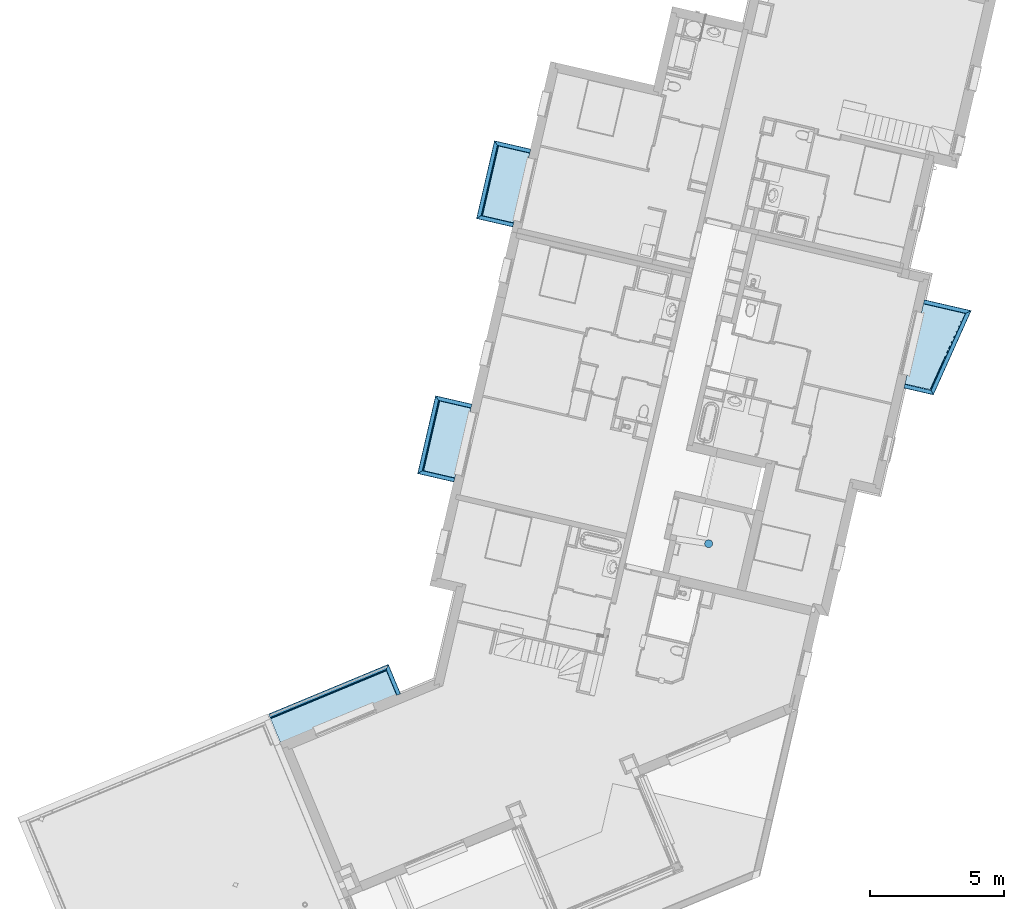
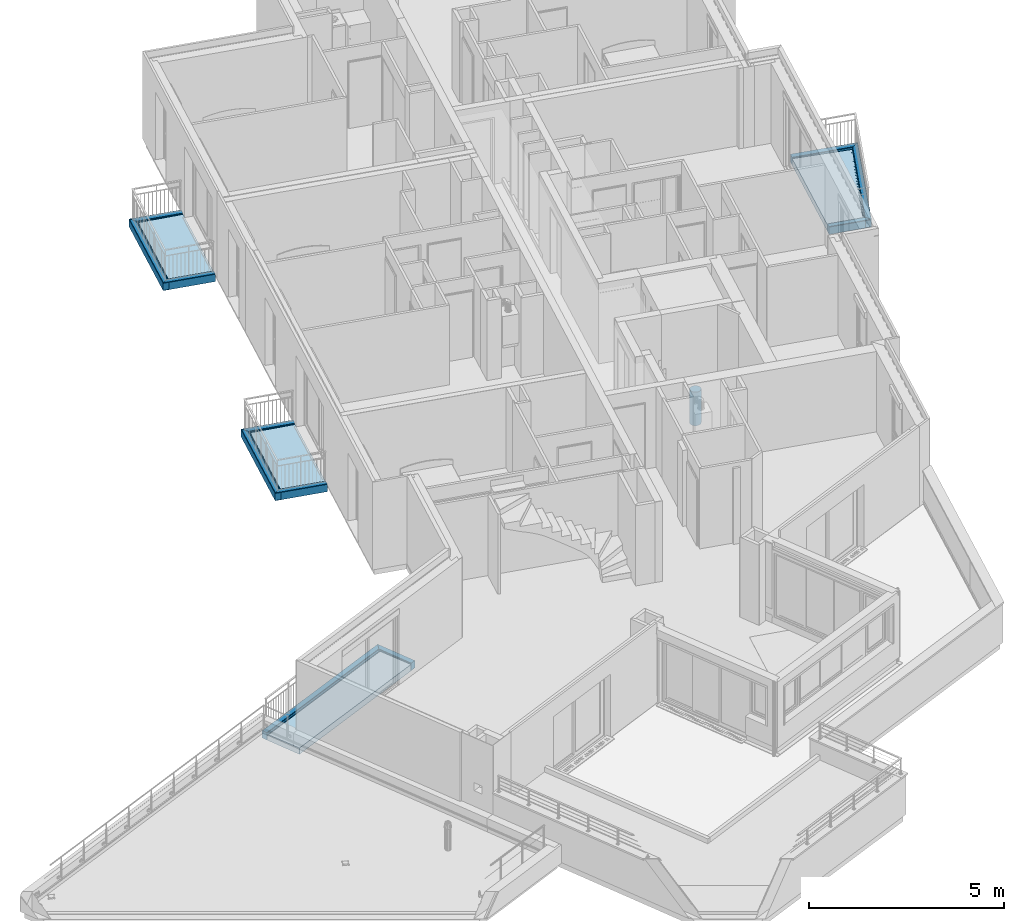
# One storey, part 2 of 62: 15 slabs, 1 member.
"""IFC2X3 building model written with IfcOpenShell, lengths in metres."""

from ifc_helpers import new_model, entity, si_unit, converted_unit, derived_unit, money_unit, direction, frame, origin_with_axes, place, context, subcontext, project, spatial, faceted_brep, material, type_object, element, save


model = new_model("IFC2X3")

# Units and contexts
model_context = context("Model", 3, precision=1e-05, world=origin_with_axes(), true_north=direction((0.0, 1.0)))
body_context = subcontext(model_context, "Body", "Model", "MODEL_VIEW")
ifc_project = project(units=[si_unit("LENGTHUNIT", "METRE"), si_unit("AREAUNIT", "SQUARE_METRE"), si_unit("VOLUMEUNIT", "CUBIC_METRE"), converted_unit("PLANEANGLEUNIT", "DEGREE", entity("IfcPlaneAngleMeasure", 0.0174532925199), si_unit("PLANEANGLEUNIT", "RADIAN"), dimensions=[0, 0, 0, 0, 0, 0, 0]), si_unit("SOLIDANGLEUNIT", "STERADIAN"), money_unit("EUR"), converted_unit("TIMEUNIT", "Year", entity("IfcTimeMeasure", 31556926.0), si_unit("TIMEUNIT", "SECOND"), dimensions=[0, 0, 1, 0, 0, 0, 0]), si_unit("MASSUNIT", "GRAM", prefix="KILO"), si_unit("THERMODYNAMICTEMPERATUREUNIT", "DEGREE_CELSIUS"), si_unit("LUMINOUSINTENSITYUNIT", "LUMEN"), si_unit("ENERGYUNIT", "JOULE", prefix="MEGA"), derived_unit("THERMALCONDUCTANCEUNIT", [(si_unit("POWERUNIT", "WATT"), 1), (si_unit("LENGTHUNIT", "METRE"), -1), (si_unit("THERMODYNAMICTEMPERATUREUNIT", "KELVIN"), -1)]), derived_unit("SPECIFICHEATCAPACITYUNIT", [(si_unit("ENERGYUNIT", "JOULE"), 1), (si_unit("MASSUNIT", "GRAM", prefix="KILO"), -1), (si_unit("THERMODYNAMICTEMPERATUREUNIT", "KELVIN"), -1)]), derived_unit("MASSDENSITYUNIT", [(si_unit("MASSUNIT", "GRAM", prefix="KILO"), 1), (si_unit("VOLUMEUNIT", "CUBIC_METRE"), -1)])], contexts=[model_context])

# Site, building, storey
site_placement = place(None, origin_with_axes())
site = spatial("IfcSite", under=ifc_project, at=site_placement, Name="Site", CompositionType="ELEMENT")
building_placement = place(site_placement, origin_with_axes())
building = spatial("IfcBuilding", under=site, at=building_placement, Name="Bâtiment", CompositionType="ELEMENT")
storey_placement = place(building_placement, frame((0.0, 0.0, 8.16), z_axis=(0.0, 0.0, 1.0), x_axis=(1.0, 0.0, 0.0)))
storey = spatial("IfcBuildingStorey", under=building, at=storey_placement, Name="R+3", CompositionType="ELEMENT", Elevation=8.16)

# Member
ifc_material = material(Name="Béton")
member_type = type_object("IfcMemberType", Name="Béton D300", PredefinedType="USERDEFINED")
member_placement = place(storey_placement, frame((-9.52980076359, -7.68659305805, 0.0), z_axis=(0.0, 0.0, 1.0), x_axis=(0.0549398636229, 0.998489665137, 0.0)))
element("IfcMember", 1, at=member_placement, inside=storey, type_object=member_type, material=ifc_material, Name="Pot-001", ObjectType="STAIR_STRUCTURE", context=body_context, shape_type="Brep", body=[
    faceted_brep([(-0.15, 0.0, 1.05), (-0.15, 0.0, 0.0), (-0.146239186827, -0.0333781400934, 0.0), (-0.146239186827, -0.0333781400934, 1.05), (-0.146239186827, 0.0333781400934, 1.05), (-0.146239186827, 0.0333781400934, 0.0), (-0.135145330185, 0.0650825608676, 0.0), (-0.11727472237, 0.0935234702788, 0.0), (-0.0935234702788, 0.11727472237, 0.0), (-0.0650825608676, 0.135145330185, 0.0), (-0.0333781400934, 0.146239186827, 0.0), (0.0, 0.15, 0.0), (0.0333781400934, 0.146239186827, 0.0), (0.0650825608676, 0.135145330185, 0.0), (0.0935234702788, 0.11727472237, 0.0), (0.11727472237, 0.0935234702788, 0.0), (0.135145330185, 0.0650825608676, 0.0), (0.146239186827, 0.0333781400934, 0.0), (0.15, 0.0, 0.0), (0.146239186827, -0.0333781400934, 0.0), (0.135145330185, -0.0650825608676, 0.0), (0.11727472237, -0.0935234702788, 0.0), (0.0935234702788, -0.11727472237, 0.0), (0.0650825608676, -0.135145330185, 0.0), (0.0333781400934, -0.146239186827, 0.0), (0.0, -0.15, 0.0), (-0.0333781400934, -0.146239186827, 0.0), (-0.0650825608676, -0.135145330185, 0.0), (-0.0935234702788, -0.11727472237, 0.0), (-0.11727472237, -0.0935234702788, 0.0), (-0.135145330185, -0.0650825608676, 0.0), (-0.135145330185, -0.0650825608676, 1.05), (-0.11727472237, -0.0935234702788, 1.05), (-0.0935234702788, -0.11727472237, 1.05), (-0.0650825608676, -0.135145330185, 1.05), (-0.0333781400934, -0.146239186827, 1.05), (0.0, -0.15, 1.05), (0.0333781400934, -0.146239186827, 1.05), (0.0650825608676, -0.135145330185, 1.05), (0.0935234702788, -0.11727472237, 1.05), (0.11727472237, -0.0935234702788, 1.05), (0.135145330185, -0.0650825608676, 1.05), (0.146239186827, -0.0333781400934, 1.05), (0.15, 0.0, 1.05), (0.146239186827, 0.0333781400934, 1.05), (0.135145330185, 0.0650825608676, 1.05), (0.11727472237, 0.0935234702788, 1.05), (0.0935234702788, 0.11727472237, 1.05), (0.0650825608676, 0.135145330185, 1.05), (0.0333781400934, 0.146239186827, 1.05), (0.0, 0.15, 1.05), (-0.0333781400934, 0.146239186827, 1.05), (-0.0650825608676, 0.135145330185, 1.05), (-0.0935234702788, 0.11727472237, 1.05), (-0.11727472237, 0.0935234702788, 1.05), (-0.135145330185, 0.0650825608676, 1.05)], [[[0, 1, 2, 3]], [[4, 5, 1, 0]], [[2, 1, 5, 6, 7, 8, 9, 10, 11, 12, 13, 14, 15, 16, 17, 18, 19, 20, 21, 22, 23, 24, 25, 26, 27, 28, 29, 30]], [[3, 2, 30, 31]], [[4, 0, 3, 31, 32, 33, 34, 35, 36, 37, 38, 39, 40, 41, 42, 43, 44, 45, 46, 47, 48, 49, 50, 51, 52, 53, 54, 55]], [[55, 6, 5, 4]], [[54, 7, 6, 55]], [[53, 8, 7, 54]], [[52, 9, 8, 53]], [[51, 10, 9, 52]], [[50, 11, 10, 51]], [[49, 12, 11, 50]], [[48, 13, 12, 49]], [[47, 14, 13, 48]], [[46, 15, 14, 47]], [[45, 16, 15, 46]], [[44, 17, 16, 45]], [[43, 18, 17, 44]], [[42, 19, 18, 43]], [[41, 20, 19, 42]], [[40, 21, 20, 41]], [[39, 22, 21, 40]], [[38, 23, 22, 39]], [[37, 24, 23, 38]], [[36, 25, 24, 37]], [[35, 26, 25, 36]], [[34, 27, 26, 35]], [[33, 28, 27, 34]], [[32, 29, 28, 33]], [[31, 30, 29, 32]]]),
])

# Slabs
slab_type_1 = type_object("IfcSlabType", Name="Nez de balcon 160 x 239", PredefinedType="USERDEFINED")
slab_1_placement = place(storey_placement, frame((-21.5195523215, -12.1975526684, -0.22), z_axis=(0.0, 0.0, 1.0), x_axis=(0.383112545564, -0.923701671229, 0.0)))
element("IfcSlab", 2, at=slab_1_placement, inside=storey, type_object=slab_type_1, material=ifc_material, Name="Nez-de-balcon béton", ObjectType="BALCONY", PredefinedType="USERDEFINED", context=body_context, shape_type="Brep", body=[
    faceted_brep([(0.159999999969, -0.0314560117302, 0.00622819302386), (0.159999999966, -0.0347409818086, 0.0), (0.159999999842, -0.16, 0.0), (0.159999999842, -0.16, 0.00872064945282), (0.159999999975, -0.0248704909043, 0.00872064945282), (1.20000000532, -0.0347409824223, 0.0), (1.20000000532, -0.0314560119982, 0.00622819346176), (1.20000000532, -0.16, 0.0), (0.159999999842, -0.16, 0.22), (1.20000000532, -0.16, 0.22), (0.16, 0.0, 0.22), (0.16, 0.0, 0.00872065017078), (1.20000000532, -0.0248704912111, 0.00872065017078), (1.20000000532, -0.018284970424, 0.00622819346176), (1.20000000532, -0.015, 0.0), (1.20000000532, 0.0, 0.0), (1.20000000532, 0.0, 0.23), (1.20000000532, -0.00998052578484, 0.239376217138), (1.20000000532, -0.150019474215, 0.230623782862), (0.150019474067, -0.150019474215, 0.230623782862), (0.150019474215, -0.00066398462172, 0.230623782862), (0.150605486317, 0.0, 0.230000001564), (0.015, 0.0, 0.0), (0.0182849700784, 0.0, 0.00622819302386), (0.0248704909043, 0.0, 0.00872064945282), (0.0248704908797, -0.0248704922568, 0.00872065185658), (0.0182849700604, -0.0182849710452, 0.00622819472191), (0.0149999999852, -0.0150000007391, 0.0), (0.00998052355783, -0.00998052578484, 0.239376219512)], [[[0, 1, 2, 3, 4]], [[5, 1, 0, 6]], [[7, 2, 1, 5]], [[8, 3, 2, 7, 9]], [[4, 3, 8, 10, 11]], [[6, 0, 4, 12]], [[9, 7, 5, 6, 12, 13, 14, 15, 16, 17, 18]], [[18, 19, 8, 9]], [[10, 8, 19, 20, 21]], [[15, 22, 23, 24, 11, 10, 21, 16]], [[24, 25, 4, 11]], [[12, 4, 25, 26, 13]], [[13, 26, 27, 14]], [[14, 27, 22, 15]], [[20, 28, 17, 16, 21]], [[17, 28, 19, 18]], [[20, 19, 28]], [[22, 27, 26, 23]], [[23, 26, 25, 24]]]),
])
slab_2_placement = place(storey_placement, frame((0.307025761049, 1.04328030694, -0.22), z_axis=(0.0, 0.0, 1.0), x_axis=(-0.974387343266, 0.224876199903, 0.0)))
element("IfcSlab", 3, at=slab_2_placement, inside=storey, type_object=slab_type_1, material=ifc_material, Name="Nez-de-balcon béton", ObjectType="BALCONY", PredefinedType="USERDEFINED", context=body_context, shape_type="Brep", body=[
    faceted_brep([(1.80634800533, 0.0314560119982, 0.00622819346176), (1.80634800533, 0.0347409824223, 0.0), (1.80634800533, 0.16, 0.0), (1.80634800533, 0.16, 0.22), (1.80634800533, 0.150019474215, 0.230623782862), (1.80634800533, 0.00998052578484, 0.239376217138), (1.80634800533, 0.0, 0.23), (1.80634800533, 0.0, 0.0), (1.80634800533, 0.015, 0.0), (1.80634800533, 0.018284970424, 0.00622819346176), (1.80634800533, 0.0248704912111, 0.00872065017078), (0.169958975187, 0.0347409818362, 0.0), (0.16930984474, 0.0314560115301, 0.00622819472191), (0.194710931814, 0.16, 0.0), (0.194710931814, 0.16, 0.22), (0.194710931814, 0.16, 0.00872064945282), (0.182565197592, 0.150019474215, 0.230623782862), (0.0121457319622, 0.00998052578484, 0.239376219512), (0.153517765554, 0.0, 0.230000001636), (0.153051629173, 0.000663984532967, 0.230623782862), (0.0152900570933, 0.0, 0.0), (0.163093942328, 0.0, 0.22), (0.163093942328, 0.0, 0.00872065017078), (0.0253514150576, 0.0, 0.00872064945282), (0.0186385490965, 0.0, 0.00622819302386), (0.0182541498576, 0.015, 0.0), (0.0222517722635, 0.0182849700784, 0.00622819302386), (0.168008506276, 0.0248704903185, 0.00872065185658), (0.0302659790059, 0.0248704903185, 0.00872065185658)], [[[0, 1, 2, 3, 4, 5, 6, 7, 8, 9, 10]], [[11, 1, 0, 12]], [[13, 2, 1, 11]], [[14, 3, 2, 13, 15]], [[16, 4, 3, 14]], [[17, 5, 4, 16]], [[18, 6, 5, 17, 19]], [[20, 7, 6, 18, 21, 22, 23, 24]], [[25, 8, 7, 20]], [[26, 9, 8, 25]], [[27, 10, 9, 26, 28]], [[12, 0, 10, 27]], [[15, 13, 11, 12, 27]], [[21, 14, 15, 27, 22]], [[19, 16, 14, 21, 18]], [[19, 17, 16]], [[23, 22, 27, 28]], [[23, 28, 26, 24]], [[26, 25, 20, 24]]]),
])
slab_3_placement = place(storey_placement, frame((-1.11220619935, -2.11855110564, -0.22), z_axis=(0.0, 0.0, 1.0), x_axis=(-0.974387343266, 0.224876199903, 0.0)))
element("IfcSlab", 4, at=slab_3_placement, inside=storey, type_object=slab_type_1, material=ifc_material, Name="Nez-de-balcon béton", ObjectType="BALCONY", PredefinedType="USERDEFINED", context=body_context, shape_type="Brep", body=[
    faceted_brep([(1.13448697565, -0.015, 0.0), (1.13448697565, 0.0, 0.0), (1.13448697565, 0.0, 0.23), (1.13448697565, -0.00998052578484, 0.239376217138), (1.13448697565, -0.150019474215, 0.230623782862), (1.13448697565, -0.16, 0.22), (1.13448697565, -0.16, 0.0), (1.13448697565, -0.0347409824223, 0.0), (1.13448697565, -0.0314560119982, 0.00622819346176), (1.13448697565, -0.0248704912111, 0.00872065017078), (1.13448697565, -0.018284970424, 0.00622819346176), (0.0152900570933, 0.0, 0.0), (0.0123259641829, -0.0150000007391, 0.0), (0.153517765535, 0.0, 0.230000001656), (0.0186385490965, 0.0, 0.00622819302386), (0.0253514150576, 0.0, 0.00872064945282), (0.163093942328, 0.0, 0.00872065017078), (0.163093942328, 0.0, 0.22), (0.00820130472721, -0.00998052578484, 0.239376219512), (0.152789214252, -0.000663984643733, 0.230623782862), (0.123275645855, -0.150019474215, 0.230623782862), (0.131476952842, -0.16, 0.22), (0.131476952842, -0.16, 0.00872064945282), (0.131476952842, -0.16, 0.0), (0.156228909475, -0.0347409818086, 0.0), (0.156878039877, -0.0314560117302, 0.00622819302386), (0.158179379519, -0.0248704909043, 0.00872064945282), (0.0150253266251, -0.0182849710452, 0.00622819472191), (0.0204368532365, -0.0248704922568, 0.00872065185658)], [[[0, 1, 2, 3, 4, 5, 6, 7, 8, 9, 10]], [[11, 1, 0, 12]], [[13, 2, 1, 11, 14, 15, 16, 17]], [[18, 3, 2, 13, 19]], [[20, 4, 3, 18]], [[21, 5, 4, 20]], [[22, 23, 6, 5, 21]], [[24, 7, 6, 23]], [[25, 8, 7, 24]], [[26, 9, 8, 25]], [[27, 10, 9, 26, 28]], [[12, 0, 10, 27]], [[14, 11, 12, 27]], [[28, 15, 14, 27]], [[28, 26, 16, 15]], [[17, 16, 26, 22, 21]], [[19, 13, 17, 21, 20]], [[20, 18, 19]], [[25, 24, 23, 22, 26]]]),
])
slab_4_placement = place(storey_placement, frame((-17.5515634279, 7.40618405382, -0.22), z_axis=(0.0, 0.0, 1.0), x_axis=(-0.224876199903, -0.974387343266, 0.0)))
element("IfcSlab", 5, at=slab_4_placement, inside=storey, type_object=slab_type_1, material=ifc_material, Name="Nez-de-balcon béton", ObjectType="BALCONY", PredefinedType="USERDEFINED", context=body_context, shape_type="Brep", body=[
    faceted_brep([(3.0, 0.16, 0.00872064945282), (2.97512950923, 0.16, 0.00872065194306), (2.96854398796, 0.16, 0.00622819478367), (2.96525901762, 0.16, 0.0), (0.0347409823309, 0.16, 0.0), (0.0314560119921, 0.16, 0.00622819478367), (0.0248704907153, 0.16, 0.00872065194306), (0.0, 0.16, 0.00872064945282), (-1.78813897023e-09, 0.16, 0.22), (3.00000000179, 0.16, 0.22), (3.0, 0.0248704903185, 0.00872065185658), (2.97512950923, 0.0248704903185, 0.00872065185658), (2.96854398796, 0.0314560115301, 0.00622819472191), (2.96525901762, 0.0347409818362, 0.0), (0.0347409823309, 0.0347409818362, 0.0), (0.0314560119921, 0.0314560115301, 0.00622819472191), (0.0248704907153, 0.0248704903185, 0.00872065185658), (0.0, 0.0248704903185, 0.00872065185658), (-1.78813941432e-09, 0.018284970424, 0.00622819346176), (-1.78813808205e-09, 0.015, 0.0), (-1.78813852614e-09, 0.0, 0.0), (-1.78813808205e-09, 0.0, 0.230000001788), (-1.78813808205e-09, 0.150605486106, 0.230000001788), (0.000663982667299, 0.150019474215, 0.230623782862), (2.99933601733, 0.150019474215, 0.230623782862), (3.00000000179, 0.150605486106, 0.230000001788), (3.00000000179, 0.018284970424, 0.00622819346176), (3.00000000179, 0.0, 0.230000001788), (3.00000000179, 0.0, 0.0), (3.00000000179, 0.015, 0.0), (0.0099805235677, 0.00998052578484, 0.239376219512), (2.99001947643, 0.00998052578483, 0.239376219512)], [[[0, 1, 2, 3, 4, 5, 6, 7, 8, 9]], [[10, 11, 1, 0]], [[12, 2, 1, 11]], [[12, 13, 3, 2]], [[4, 3, 13, 14]], [[15, 5, 4, 14]], [[15, 16, 6, 5]], [[7, 6, 16, 17]], [[8, 7, 17, 18, 19, 20, 21, 22]], [[22, 23, 24, 25, 9, 8]], [[26, 10, 0, 9, 25, 27, 28, 29]], [[16, 11, 10, 26, 18, 17]], [[15, 12, 11, 16]], [[14, 13, 12, 15]], [[19, 18, 26, 29]], [[20, 19, 29, 28]], [[21, 20, 28, 27]], [[21, 30, 23, 22]], [[23, 30, 31, 24]], [[31, 27, 25, 24]], [[30, 21, 27, 31]]]),
])
slab_5_placement = place(storey_placement, frame((-17.5515634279, 7.40618405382, -0.22), z_axis=(0.0, 0.0, 1.0), x_axis=(0.974387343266, -0.224876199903, 0.0)))
element("IfcSlab", 6, at=slab_5_placement, inside=storey, type_object=slab_type_1, material=ifc_material, Name="Nez-de-balcon béton", ObjectType="BALCONY", PredefinedType="USERDEFINED", context=body_context, shape_type="Brep", body=[
    faceted_brep([(0.015, 0.0, 0.0), (0.015, -0.0150000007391, 0.0), (0.0182849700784, -0.0182849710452, 0.00622819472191), (0.0182849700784, 0.0, 0.00622819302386), (1.40000000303, -0.015, 0.0), (1.40000000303, 0.0, 0.0), (1.40000000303, -0.018284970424, 0.00622819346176), (0.0248704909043, -0.0248704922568, 0.00872065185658), (0.0248704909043, 0.0, 0.00872064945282), (0.16, 0.0, 0.00872065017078), (0.16, 0.0, 0.22), (0.150605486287, 0.0, 0.230000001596), (1.40000000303, 0.0, 0.23), (1.40000000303, -0.16, 0.22), (1.40000000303, -0.16, 0.0), (1.40000000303, -0.0347409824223, 0.0), (1.40000000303, -0.0314560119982, 0.00622819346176), (1.40000000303, -0.0248704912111, 0.00872065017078), (1.40000000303, -0.00998052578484, 0.239376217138), (1.40000000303, -0.150019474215, 0.230623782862), (0.16, -0.0248704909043, 0.00872064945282), (0.16, -0.16, 0.00872064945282), (0.16, -0.16, 0.22), (0.150019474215, -0.150019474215, 0.230623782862), (0.150019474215, -0.000663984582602, 0.230623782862), (0.00998052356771, -0.00998052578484, 0.239376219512), (0.16, -0.16, 0.0), (0.16, -0.0347409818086, 0.0), (0.16, -0.0314560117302, 0.00622819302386)], [[[0, 1, 2, 3]], [[4, 1, 0, 5]], [[6, 2, 1, 4]], [[3, 2, 7, 8]], [[5, 0, 3, 8, 9, 10, 11, 12]], [[13, 14, 15, 16, 17, 6, 4, 5, 12, 18, 19]], [[17, 20, 7, 2, 6]], [[8, 7, 20, 9]], [[20, 21, 22, 10, 9]], [[10, 22, 23, 24, 11]], [[12, 11, 24, 25, 18]], [[22, 21, 26, 14, 13]], [[14, 26, 27, 15]], [[16, 15, 27, 28]], [[17, 16, 28, 20]], [[18, 25, 23, 19]], [[19, 23, 22, 13]], [[28, 27, 26, 21, 20]], [[24, 23, 25]]]),
])
slab_6_placement = place(storey_placement, frame((-18.2261920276, 4.48302202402, -0.22), z_axis=(0.0, 0.0, 1.0), x_axis=(0.974387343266, -0.224876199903, 0.0)))
element("IfcSlab", 7, at=slab_6_placement, inside=storey, type_object=slab_type_1, material=ifc_material, Name="Nez-de-balcon béton", ObjectType="BALCONY", PredefinedType="USERDEFINED", context=body_context, shape_type="Brep", body=[
    faceted_brep([(0.0182849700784, 0.0182849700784, 0.00622819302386), (0.015, 0.015, 0.0), (0.015, 0.0, 0.0), (0.0182849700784, 0.0, 0.00622819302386), (1.39999999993, 0.015, 0.0), (1.39999999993, 0.018284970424, 0.00622819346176), (1.39999999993, 0.0, 0.0), (0.150605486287, 0.0, 0.230000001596), (0.16, 0.0, 0.22), (0.16, 0.0, 0.00872065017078), (0.0248704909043, 0.0, 0.00872064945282), (1.39999999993, 0.0, 0.23), (0.0248704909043, 0.0248704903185, 0.00872065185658), (0.16, 0.0248704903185, 0.00872065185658), (1.39999999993, 0.0248704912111, 0.00872065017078), (1.39999999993, 0.00998052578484, 0.239376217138), (1.39999999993, 0.0314560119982, 0.00622819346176), (1.39999999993, 0.0347409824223, 0.0), (1.39999999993, 0.16, 0.0), (1.39999999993, 0.16, 0.22), (1.39999999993, 0.150019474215, 0.230623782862), (0.16, 0.16, 0.22), (0.150019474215, 0.000663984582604, 0.230623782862), (0.150019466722, 0.150019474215, 0.23062378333), (0.16, 0.16, 0.00872064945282), (0.00998052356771, 0.00998052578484, 0.239376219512), (0.16, 0.0314560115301, 0.00622819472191), (0.16, 0.0347409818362, 0.0), (0.16, 0.16, 0.0)], [[[0, 1, 2, 3]], [[4, 1, 0, 5]], [[6, 2, 1, 4]], [[7, 8, 9, 10, 3, 2, 6, 11]], [[0, 3, 10, 12]], [[0, 12, 13, 14, 5]], [[15, 11, 6, 4, 5, 14, 16, 17, 18, 19, 20]], [[21, 8, 7, 22, 23]], [[24, 13, 9, 8, 21]], [[10, 9, 13, 12]], [[25, 22, 7, 11, 15]], [[14, 13, 26, 16]], [[16, 26, 27, 17]], [[18, 17, 27, 28]], [[18, 28, 24, 21, 19]], [[19, 21, 23, 20]], [[20, 23, 25, 15]], [[23, 22, 25]], [[27, 26, 13, 24, 28]]]),
])
slab_7_placement = place(storey_placement, frame((-19.7551998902, -2.14216067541, -0.22), z_axis=(0.0, 0.0, 1.0), x_axis=(-0.224876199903, -0.974387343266, 0.0)))
element("IfcSlab", 8, at=slab_7_placement, inside=storey, type_object=slab_type_1, material=ifc_material, Name="Nez-de-balcon béton", ObjectType="BALCONY", PredefinedType="USERDEFINED", context=body_context, shape_type="Brep", body=[
    faceted_brep([(3.0, 0.16, 0.00872064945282), (2.97512950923, 0.16, 0.00872065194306), (2.96854398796, 0.16, 0.00622819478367), (2.96525901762, 0.16, 0.0), (0.0347409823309, 0.16, 0.0), (0.0314560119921, 0.16, 0.00622819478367), (0.0248704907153, 0.16, 0.00872065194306), (0.0, 0.16, 0.00872064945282), (-1.78813852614e-09, 0.16, 0.22), (3.00000000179, 0.16, 0.22), (3.0, 0.0248704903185, 0.00872065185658), (2.97512950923, 0.0248704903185, 0.00872065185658), (2.96854398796, 0.0314560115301, 0.00622819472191), (2.96525901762, 0.0347409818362, 0.0), (0.0347409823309, 0.0347409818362, 0.0), (0.0314560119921, 0.0314560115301, 0.00622819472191), (0.0248704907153, 0.0248704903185, 0.00872065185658), (0.0, 0.0248704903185, 0.00872065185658), (-1.78813852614e-09, 0.018284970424, 0.00622819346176), (-1.78813763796e-09, 0.015, 0.0), (-1.78813941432e-09, 0.0, 0.0), (-1.78813763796e-09, 0.0, 0.230000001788), (-1.78813763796e-09, 0.150605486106, 0.230000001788), (0.0006639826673, 0.150019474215, 0.230623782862), (2.99933601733, 0.150019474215, 0.230623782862), (3.00000000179, 0.150605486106, 0.230000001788), (3.00000000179, 0.018284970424, 0.00622819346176), (3.00000000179, 0.0, 0.230000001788), (3.00000000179, 0.0, 0.0), (3.00000000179, 0.015, 0.0), (0.0099805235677, 0.00998052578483, 0.239376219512), (2.99001947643, 0.00998052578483, 0.239376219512)], [[[0, 1, 2, 3, 4, 5, 6, 7, 8, 9]], [[10, 11, 1, 0]], [[12, 2, 1, 11]], [[12, 13, 3, 2]], [[4, 3, 13, 14]], [[15, 5, 4, 14]], [[15, 16, 6, 5]], [[7, 6, 16, 17]], [[8, 7, 17, 18, 19, 20, 21, 22]], [[22, 23, 24, 25, 9, 8]], [[26, 10, 0, 9, 25, 27, 28, 29]], [[16, 11, 10, 26, 18, 17]], [[15, 12, 11, 16]], [[14, 13, 12, 15]], [[19, 18, 26, 29]], [[20, 19, 29, 28]], [[21, 20, 28, 27]], [[21, 30, 23, 22]], [[23, 30, 31, 24]], [[31, 27, 25, 24]], [[30, 21, 27, 31]]]),
])
slab_8_placement = place(storey_placement, frame((-19.7551998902, -2.14216067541, -0.22), z_axis=(0.0, 0.0, 1.0), x_axis=(0.974387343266, -0.224876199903, 0.0)))
element("IfcSlab", 9, at=slab_8_placement, inside=storey, type_object=slab_type_1, material=ifc_material, Name="Nez-de-balcon béton", ObjectType="BALCONY", PredefinedType="USERDEFINED", context=body_context, shape_type="Brep", body=[
    faceted_brep([(1.40000000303, -0.16, 0.0), (0.16, -0.16, 0.0), (0.16, -0.0347409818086, 0.0), (1.40000000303, -0.0347409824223, 0.0), (0.16, -0.16, 0.22), (0.16, -0.16, 0.00872064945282), (1.40000000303, -0.16, 0.22), (0.16, -0.0314560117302, 0.00622819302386), (0.16, -0.0248704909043, 0.00872064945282), (1.40000000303, -0.0314560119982, 0.00622819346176), (1.40000000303, -0.0248704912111, 0.00872065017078), (1.40000000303, -0.018284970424, 0.00622819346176), (1.40000000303, -0.015, 0.0), (1.40000000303, 0.0, 0.0), (1.40000000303, 0.0, 0.23), (1.40000000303, -0.00998052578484, 0.239376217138), (1.40000000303, -0.150019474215, 0.230623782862), (0.16, 0.0, 0.22), (0.16, 0.0, 0.00872065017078), (0.150019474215, -0.150019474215, 0.230623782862), (0.0248704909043, -0.0248704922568, 0.00872065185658), (0.0182849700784, -0.0182849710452, 0.00622819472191), (0.015, -0.0150000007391, 0.0), (0.015, 0.0, 0.0), (0.0182849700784, 0.0, 0.00622819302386), (0.0248704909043, 0.0, 0.00872064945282), (0.150605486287, 0.0, 0.230000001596), (0.150019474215, -0.000663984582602, 0.230623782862), (0.0099805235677, -0.00998052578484, 0.239376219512)], [[[0, 1, 2, 3]], [[4, 5, 1, 0, 6]], [[7, 2, 1, 5, 8]], [[9, 3, 2, 7]], [[6, 0, 3, 9, 10, 11, 12, 13, 14, 15, 16]], [[8, 5, 4, 17, 18]], [[16, 19, 4, 6]], [[10, 9, 7, 8]], [[10, 8, 20, 21, 11]], [[11, 21, 22, 12]], [[12, 22, 23, 13]], [[13, 23, 24, 25, 18, 17, 26, 14]], [[14, 26, 27, 28, 15]], [[15, 28, 19, 16]], [[17, 4, 19, 27, 26]], [[25, 20, 8, 18]], [[24, 21, 20, 25]], [[23, 22, 21, 24]], [[27, 19, 28]]]),
])
slab_9_placement = place(storey_placement, frame((-20.4298284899, -5.06532270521, -0.22), z_axis=(0.0, 0.0, 1.0), x_axis=(0.974387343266, -0.224876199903, 0.0)))
element("IfcSlab", 10, at=slab_9_placement, inside=storey, type_object=slab_type_1, material=ifc_material, Name="Nez-de-balcon béton", ObjectType="BALCONY", PredefinedType="USERDEFINED", context=body_context, shape_type="Brep", body=[
    faceted_brep([(0.0182849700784, 0.0182849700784, 0.00622819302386), (0.015, 0.015, 0.0), (0.015, 0.0, 0.0), (0.0182849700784, 0.0, 0.00622819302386), (1.39999999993, 0.015, 0.0), (1.39999999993, 0.018284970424, 0.00622819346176), (1.39999999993, 0.0, 0.0), (0.150605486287, 0.0, 0.230000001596), (0.16, 0.0, 0.22), (0.16, 0.0, 0.00872065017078), (0.0248704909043, 0.0, 0.00872064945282), (1.39999999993, 0.0, 0.23), (0.0248704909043, 0.0248704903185, 0.00872065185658), (0.16, 0.0248704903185, 0.00872065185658), (1.39999999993, 0.0248704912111, 0.00872065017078), (1.39999999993, 0.00998052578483, 0.239376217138), (1.39999999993, 0.0314560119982, 0.00622819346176), (1.39999999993, 0.0347409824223, 0.0), (1.39999999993, 0.16, 0.0), (1.39999999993, 0.16, 0.22), (1.39999999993, 0.150019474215, 0.230623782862), (0.16, 0.16, 0.22), (0.150019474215, 0.000663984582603, 0.230623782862), (0.150019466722, 0.150019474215, 0.23062378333), (0.16, 0.16, 0.00872064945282), (0.00998052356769, 0.00998052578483, 0.239376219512), (0.16, 0.0314560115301, 0.00622819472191), (0.16, 0.0347409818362, 0.0), (0.16, 0.16, 0.0)], [[[0, 1, 2, 3]], [[4, 1, 0, 5]], [[6, 2, 1, 4]], [[7, 8, 9, 10, 3, 2, 6, 11]], [[0, 3, 10, 12]], [[0, 12, 13, 14, 5]], [[15, 11, 6, 4, 5, 14, 16, 17, 18, 19, 20]], [[21, 8, 7, 22, 23]], [[24, 13, 9, 8, 21]], [[10, 9, 13, 12]], [[25, 22, 7, 11, 15]], [[14, 13, 26, 16]], [[16, 26, 27, 17]], [[18, 17, 27, 28]], [[18, 28, 24, 21, 19]], [[19, 21, 23, 20]], [[23, 25, 15, 20]], [[23, 22, 25]], [[27, 26, 13, 24, 28]]]),
])
slab_10_placement = place(storey_placement, frame((0.307025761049, 1.04328030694, -0.22), z_axis=(0.0, 0.0, 1.0), x_axis=(-0.409502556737, -0.912308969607, 0.0)))
element("IfcSlab", 11, at=slab_10_placement, inside=storey, type_object=slab_type_1, material=ifc_material, Name="Nez-de-balcon béton", ObjectType="BALCONY", PredefinedType="USERDEFINED", context=body_context, shape_type="Brep", body=[
    faceted_brep([(3.49736326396, -0.16, 0.00872064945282), (3.4720118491, -0.16, 0.00872064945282), (3.44530942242, -0.0248704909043, 0.00872064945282), (3.47066083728, -0.0248704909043, 0.00872064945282), (3.46195049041, -0.16, 0.0), (3.46529898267, -0.16, 0.00622819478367), (3.49736326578, -0.16, 0.22), (0.0316169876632, -0.16, 0.22), (0.0316169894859, -0.16, 0.00872064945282), (0.0569684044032, -0.16, 0.00872064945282), (0.063681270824, -0.16, 0.00622819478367), (0.0670297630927, -0.16, 0.0), (3.43989789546, -0.0314560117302, 0.00622819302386), (3.46935949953, -0.018284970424, 0.00622819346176), (0.0302659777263, -0.0248704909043, 0.00872064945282), (0.00491456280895, -0.0248704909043, 0.00872064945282), (0.00361322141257, -0.018284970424, 0.00622819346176), (3.46871036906, -0.015, 0.0), (3.4657462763, 0.0, 0.0), (3.46574627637, -3.55494578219e-10, 0.230000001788), (3.49550685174, -0.150605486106, 0.230000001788), (3.43719853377, -0.0347409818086, 0.0), (3.49471422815, -0.150019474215, 0.230623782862), (0.0303215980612, -0.150019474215, 0.230623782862), (0.0297605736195, -0.150605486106, 0.230000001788), (-1.82271553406e-09, 0.0, 0.230000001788), (-1.82271686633e-09, 0.0, 0.0), (0.00296409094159, -0.015, 0.0), (0.0382801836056, -0.0314560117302, 0.00622819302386), (0.0422778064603, -0.0347409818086, 0.0), (3.45754496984, -0.00998052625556, 0.239376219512), (0.0121457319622, -0.00998052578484, 0.239376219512)], [[[0, 1, 2, 3]], [[4, 5, 1, 0, 6, 7, 8, 9, 10, 11]], [[5, 12, 2, 1]], [[13, 3, 2, 14, 15, 16]], [[6, 0, 3, 13, 17, 18, 19, 20]], [[4, 21, 12, 5]], [[7, 6, 20, 22, 23, 24]], [[16, 15, 8, 7, 24, 25, 26, 27]], [[15, 14, 9, 8]], [[10, 9, 14, 28]], [[10, 28, 29, 11]], [[29, 21, 4, 11]], [[14, 2, 12, 28]], [[16, 27, 17, 13]], [[27, 26, 18, 17]], [[26, 25, 19, 18]], [[22, 20, 19, 30]], [[28, 12, 21, 29]], [[31, 23, 22, 30]], [[24, 23, 31, 25]], [[25, 31, 30, 19]]]),
])
slab_11_placement = place(storey_placement, frame((-26.007294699, -14.0588791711, -0.22), z_axis=(0.0, 0.0, 1.0), x_axis=(0.923701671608, 0.38311254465, 0.0)))
element("IfcSlab", 12, at=slab_11_placement, inside=storey, type_object=slab_type_1, material=ifc_material, Name="Nez-de-balcon béton", ObjectType="BALCONY", PredefinedType="USERDEFINED", context=body_context, shape_type="Brep", body=[
    faceted_brep([(0.0, -0.16, 0.0), (4.82369168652, -0.16, 0.0), (4.82697665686, -0.16, 0.00622819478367), (4.83356217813, -0.16, 0.00872064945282), (4.85843266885, -0.16, 0.00872064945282), (4.85843267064, -0.16, 0.22), (0.0, -0.16, 0.22), (0.0, -0.0347409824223, 0.0), (4.82369168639, -0.0347409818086, 0.0), (4.82697665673, -0.0314560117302, 0.00622819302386), (4.833562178, -0.0248704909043, 0.00872064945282), (4.85843266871, -0.0248704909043, 0.00872064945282), (4.8584326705, -0.018284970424, 0.00622819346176), (4.85843267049, -0.015, 0.0), (4.85843267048, 0.0, 0.0), (4.85843267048, 0.0, 0.230000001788), (4.85843267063, -0.150605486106, 0.230000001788), (4.85776868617, -0.150019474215, 0.230623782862), (0.0, -0.150019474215, 0.230623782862), (0.0, -0.0314560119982, 0.00622819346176), (0.0, -0.00998052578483, 0.239376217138), (0.0, 0.0, 0.23), (0.0, 0.0, 0.0), (0.0, -0.015, 0.0), (0.0, -0.018284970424, 0.00622819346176), (0.0, -0.0248704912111, 0.00872065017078), (4.84845214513, -0.00998052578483, 0.239376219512)], [[[0, 1, 2, 3, 4, 5, 6]], [[7, 8, 1, 0]], [[9, 2, 1, 8]], [[9, 10, 3, 2]], [[4, 3, 10, 11]], [[5, 4, 11, 12, 13, 14, 15, 16]], [[6, 5, 16, 17, 18]], [[19, 7, 0, 6, 18, 20, 21, 22, 23, 24, 25]], [[19, 9, 8, 7]], [[25, 10, 9, 19]], [[12, 11, 10, 25, 24]], [[24, 23, 13, 12]], [[23, 22, 14, 13]], [[22, 21, 15, 14]], [[15, 26, 17, 16]], [[20, 18, 17, 26]], [[21, 20, 26, 15]]]),
])
slab_type_2 = type_object("IfcSlabType", Name="Béton", PredefinedType="USERDEFINED")
slab_12_placement = place(storey_placement, frame((-2.18165575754, -1.9315105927, -0.22), z_axis=(0.0, 0.0, 1.0), x_axis=(1.0, 0.0, 0.0)))
element("IfcSlab", 13, at=slab_12_placement, inside=storey, type_object=slab_type_2, material=ifc_material, Name="Dalle de balcon béton", ObjectType="BALCONY", PredefinedType="USERDEFINED", context=body_context, shape_type="Brep", body=[
    faceted_brep([(0.941533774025, 0.0163800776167, 0.18532142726), (0.695691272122, 3.22438446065, 0.198149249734), (0.0, 0.223980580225, 0.199619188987), (2.23318056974, 2.86955150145, 0.160000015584), (0.692618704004, 3.22509359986, 0.198277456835), (0.941533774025, 0.0163800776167, 0.0), (0.0, 0.223980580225, 0.0), (0.950656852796, 0.0122850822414, 0.160000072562), (0.692618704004, 3.22509359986, 0.0), (2.26297744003, 2.86267478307, 0.16), (2.26297744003, 2.86267478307, 0.0), (0.978026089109, 0.0, 0.0), (0.978026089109, 0.0, 0.16)], [[[0, 1, 2]], [[0, 3, 1]], [[4, 2, 1]], [[5, 0, 2, 6]], [[0, 7, 3]], [[8, 4, 1, 3, 9, 10]], [[6, 2, 4, 8]], [[11, 12, 7, 0, 5]], [[8, 10, 11, 5, 6]], [[7, 12, 9, 3]], [[10, 9, 12, 11]]]),
])
for number, where, z_axis, x_axis in (
    (14, (-18.0343098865, 4.324097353, -0.22), (0.0, 0.0, 1.0), (1.0, 0.0, 0.0)),
    (15, (-20.2379463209, -5.22424738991, -0.22), (0.0, 0.0, 1.0), (1.0, 0.0, 0.0)),
):
    element("IfcSlab", number, at=place(storey_placement, frame(where, z_axis=z_axis, x_axis=x_axis)), inside=storey, type_object=slab_type_2, material=ifc_material, Name="Dalle de balcon béton", ObjectType="BALCONY", PredefinedType="USERDEFINED", context=body_context, shape_type="Brep", body=[
        faceted_brep([(1.81090855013, 2.61135804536, 0.198273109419), (0.641643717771, 2.88120950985, 0.185321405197), (0.0389755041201, 0.269851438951, 0.185321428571), (1.2082403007, 0.0, 0.198273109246), (0.602668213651, 2.89020454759, 0.0), (0.602668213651, 2.89020454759, 0.16), (0.631899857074, 2.88345827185, 0.160000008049), (1.81090855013, 2.61135804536, 0.0), (0.0292315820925, 0.272100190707, 0.16), (1.2082403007, 0.0, 0.0), (0.0, 0.278846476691, 0.16), (0.0, 0.278846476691, 0.0)], [[[0, 1, 2, 3]], [[4, 5, 6, 1, 0, 7]], [[8, 2, 1, 6]], [[9, 3, 2, 8, 10, 11]], [[7, 0, 3, 9]], [[11, 10, 5, 4]], [[10, 8, 6, 5]], [[11, 4, 7, 9]]]),
    ])
slab_13_placement = place(storey_placement, frame((-25.9459966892, -15.1673211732, -0.22), z_axis=(0.0, 0.0, 1.0), x_axis=(1.0, 0.0, 0.0)))
element("IfcSlab", 16, at=slab_13_placement, inside=storey, type_object=slab_type_2, material=ifc_material, Name="Dalle de balcon béton", ObjectType="BALCONY", PredefinedType="USERDEFINED", context=body_context, shape_type="Brep", body=[
    faceted_brep([(0.0114933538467, 0.93293874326, 0.16), (4.35144351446, 2.73296714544, 0.160000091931), (4.33995009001, 2.76067820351, 0.16), (0.0, 0.960649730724, 0.16), (4.35527460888, 2.72373012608, 0.185321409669), (0.0153245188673, 0.923701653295, 0.185321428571), (4.33995009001, 2.76067820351, 0.0), (4.73838715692, 1.80002847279, 0.196027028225), (4.73838715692, 1.80002847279, 0.0), (0.0, 0.960649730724, 0.0), (0.398437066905, 0.0, 0.0), (0.398437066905, 0.0, 0.196028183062)], [[[0, 1, 2, 3]], [[4, 1, 0, 5]], [[6, 2, 1, 4, 7, 8]], [[9, 3, 2, 6]], [[10, 11, 5, 0, 3, 9]], [[5, 11, 7, 4]], [[8, 7, 11, 10]], [[6, 8, 10, 9]]]),
])

save(model, "model.ifc")
